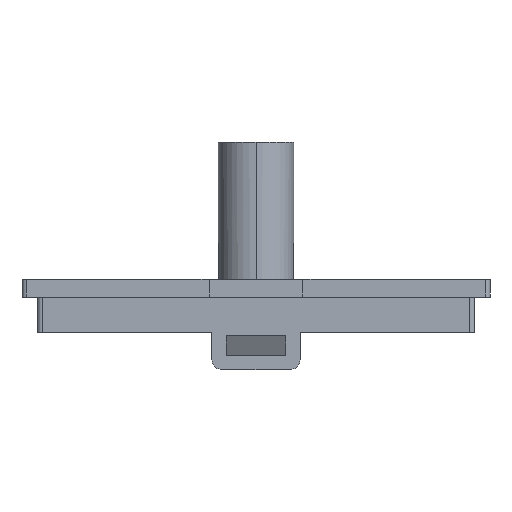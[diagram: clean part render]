
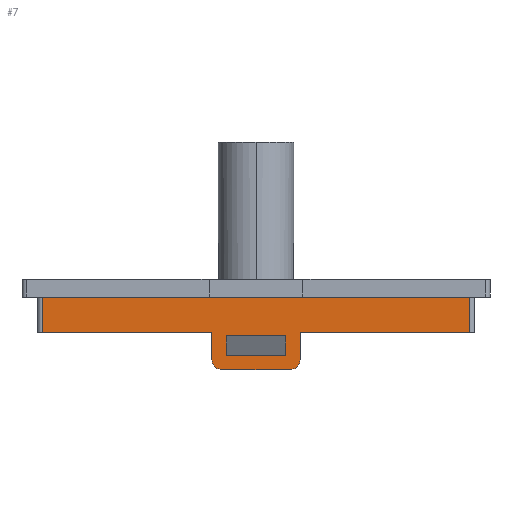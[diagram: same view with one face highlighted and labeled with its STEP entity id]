
A CAD part, left-side view. The second image highlights one B-rep face of the part: STEP entity #7.
In plain terms, the highlighted planar face has unit normal (-1, 0, 0).
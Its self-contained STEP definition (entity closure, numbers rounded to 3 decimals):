
#7 = ADVANCED_FACE ( 'NONE', ( #4616, #4592 ), #2514, .F. ) ;
#115 = VERTEX_POINT ( 'NONE', #4291 ) ;
#164 = EDGE_CURVE ( 'NONE', #839, #3807, #3872, .T. ) ;
#192 = EDGE_CURVE ( 'NONE', #839, #1678, #3787, .T. ) ;
#275 = ORIENTED_EDGE ( 'NONE', *, *, #164, .F. ) ;
#288 = ORIENTED_EDGE ( 'NONE', *, *, #346, .T. ) ;
#300 = CARTESIAN_POINT ( 'NONE',  ( -22.35, -4.5, -5.4 ) ) ;
#346 = EDGE_CURVE ( 'NONE', #1678, #4188, #3442, .T. ) ;
#348 = VERTEX_POINT ( 'NONE', #4698 ) ;
#385 = EDGE_CURVE ( 'NONE', #4188, #3083, #3417, .T. ) ;
#445 = VERTEX_POINT ( 'NONE', #1950 ) ;
#478 = EDGE_CURVE ( 'NONE', #348, #3083, #3152, .T. ) ;
#518 = CARTESIAN_POINT ( 'NONE',  ( -22.35, 22.35, -5.4 ) ) ;
#542 = DIRECTION ( 'NONE',  ( 0., 1., 0. ) ) ;
#575 = CARTESIAN_POINT ( 'NONE',  ( -22.35, 3.05, -5.75 ) ) ;
#597 = EDGE_CURVE ( 'NONE', #2228, #348, #2789, .T. ) ;
#608 = DIRECTION ( 'NONE',  ( 1., 0., 0. ) ) ;
#629 = EDGE_CURVE ( 'NONE', #445, #2228, #2865, .T. ) ;
#671 = DIRECTION ( 'NONE',  ( 0., 1., 0. ) ) ;
#740 = EDGE_CURVE ( 'NONE', #115, #445, #2710, .T. ) ;
#749 = CARTESIAN_POINT ( 'NONE',  ( -22.35, -3.5, -8.2 ) ) ;
#763 = CARTESIAN_POINT ( 'NONE',  ( -22.35, 3.5, -9.2 ) ) ;
#807 = EDGE_CURVE ( 'NONE', #1988, #115, #2491, .T. ) ;
#839 = VERTEX_POINT ( 'NONE', #3773 ) ;
#892 = EDGE_CURVE ( 'NONE', #3807, #1988, #2275, .T. ) ;
#953 = EDGE_CURVE ( 'NONE', #3988, #4210, #2165, .T. ) ;
#1052 = EDGE_CURVE ( 'NONE', #3988, #3462, #2005, .T. ) ;
#1136 = DIRECTION ( 'NONE',  ( 0., 0., 1. ) ) ;
#1169 = CARTESIAN_POINT ( 'NONE',  ( -22.35, 21.85, -1.8 ) ) ;
#1220 = EDGE_CURVE ( 'NONE', #3462, #2685, #1689, .T. ) ;
#1239 = EDGE_LOOP ( 'NONE', ( #275, #1773, #288, #1260, #2668, #2556, #4505, #3515, #3709, #4246 ) ) ;
#1260 = ORIENTED_EDGE ( 'NONE', *, *, #385, .T. ) ;
#1299 = CARTESIAN_POINT ( 'NONE',  ( -22.35, 22.35, -5.4 ) ) ;
#1316 = EDGE_CURVE ( 'NONE', #4210, #2685, #1448, .T. ) ;
#1318 = DIRECTION ( 'NONE',  ( 0., 1., 0. ) ) ;
#1375 = CARTESIAN_POINT ( 'NONE',  ( -22.35, 22.35, -5.4 ) ) ;
#1391 = VECTOR ( 'NONE', #4351, 1000. ) ;
#1448 = LINE ( 'NONE', #4741, #1391 ) ;
#1465 = CARTESIAN_POINT ( 'NONE',  ( -22.35, -3.05, -7.75 ) ) ;
#1481 = ORIENTED_EDGE ( 'NONE', *, *, #1220, .T. ) ;
#1494 = CARTESIAN_POINT ( 'NONE',  ( -22.35, 3.5, -8.2 ) ) ;
#1520 = CARTESIAN_POINT ( 'NONE',  ( -22.35, 4.5, -8.2 ) ) ;
#1556 = DIRECTION ( 'NONE',  ( 0., 0., -1. ) ) ;
#1627 = DIRECTION ( 'NONE',  ( 0., 0., 1. ) ) ;
#1678 = VERTEX_POINT ( 'NONE', #4218 ) ;
#1682 = DIRECTION ( 'NONE',  ( 0., 1., 0. ) ) ;
#1689 = LINE ( 'NONE', #4212, #1717 ) ;
#1717 = VECTOR ( 'NONE', #1984, 1000. ) ;
#1730 = ORIENTED_EDGE ( 'NONE', *, *, #1316, .F. ) ;
#1773 = ORIENTED_EDGE ( 'NONE', *, *, #192, .T. ) ;
#1878 = DIRECTION ( 'NONE',  ( 0., 0., -1. ) ) ;
#1907 = AXIS2_PLACEMENT_3D ( 'NONE', #749, #3381, #1136 ) ;
#1950 = CARTESIAN_POINT ( 'NONE',  ( -22.35, 3.5, -9.2 ) ) ;
#1979 = VECTOR ( 'NONE', #671, 1000. ) ;
#1984 = DIRECTION ( 'NONE',  ( 0., 0., 1. ) ) ;
#1988 = VERTEX_POINT ( 'NONE', #3350 ) ;
#1992 = CARTESIAN_POINT ( 'NONE',  ( -22.35, -21.85, -5.4 ) ) ;
#2005 = LINE ( 'NONE', #2215, #1979 ) ;
#2165 = LINE ( 'NONE', #4326, #2226 ) ;
#2215 = CARTESIAN_POINT ( 'NONE',  ( -22.35, -3.05, -7.75 ) ) ;
#2226 = VECTOR ( 'NONE', #3562, 1000. ) ;
#2228 = VERTEX_POINT ( 'NONE', #1520 ) ;
#2237 = CARTESIAN_POINT ( 'NONE',  ( -22.35, 4.5, -1.8 ) ) ;
#2263 = AXIS2_PLACEMENT_3D ( 'NONE', #1494, #4100, #1878 ) ;
#2275 = LINE ( 'NONE', #2731, #2279 ) ;
#2279 = VECTOR ( 'NONE', #3085, 1000. ) ;
#2491 = CIRCLE ( 'NONE', #1907, 1. ) ;
#2514 = PLANE ( 'NONE',  #4825 ) ;
#2556 = ORIENTED_EDGE ( 'NONE', *, *, #597, .F. ) ;
#2634 = VECTOR ( 'NONE', #3749, 1000. ) ;
#2668 = ORIENTED_EDGE ( 'NONE', *, *, #478, .F. ) ;
#2685 = VERTEX_POINT ( 'NONE', #575 ) ;
#2710 = LINE ( 'NONE', #763, #2634 ) ;
#2731 = CARTESIAN_POINT ( 'NONE',  ( -22.35, -4.5, -1.8 ) ) ;
#2756 = VECTOR ( 'NONE', #3320, 1000. ) ;
#2789 = LINE ( 'NONE', #2237, #2756 ) ;
#2865 = CIRCLE ( 'NONE', #2263, 1. ) ;
#3018 = EDGE_LOOP ( 'NONE', ( #4608, #4496, #1481, #1730 ) ) ;
#3076 = VECTOR ( 'NONE', #1682, 1000. ) ;
#3083 = VERTEX_POINT ( 'NONE', #4541 ) ;
#3085 = DIRECTION ( 'NONE',  ( 0., 0., -1. ) ) ;
#3152 = LINE ( 'NONE', #518, #3076 ) ;
#3188 = CARTESIAN_POINT ( 'NONE',  ( -22.35, 22.35, -1.8 ) ) ;
#3246 = DIRECTION ( 'NONE',  ( 0., 0., -1. ) ) ;
#3320 = DIRECTION ( 'NONE',  ( 0., 0., 1. ) ) ;
#3350 = CARTESIAN_POINT ( 'NONE',  ( -22.35, -4.5, -8.2 ) ) ;
#3364 = VECTOR ( 'NONE', #1556, 1000. ) ;
#3381 = DIRECTION ( 'NONE',  ( 1., 0., 0. ) ) ;
#3417 = LINE ( 'NONE', #3763, #3364 ) ;
#3437 = VECTOR ( 'NONE', #542, 1000. ) ;
#3442 = LINE ( 'NONE', #3188, #3437 ) ;
#3462 = VERTEX_POINT ( 'NONE', #4082 ) ;
#3515 = ORIENTED_EDGE ( 'NONE', *, *, #740, .F. ) ;
#3562 = DIRECTION ( 'NONE',  ( 0., 0., 1. ) ) ;
#3653 = VECTOR ( 'NONE', #1627, 1000. ) ;
#3709 = ORIENTED_EDGE ( 'NONE', *, *, #807, .F. ) ;
#3749 = DIRECTION ( 'NONE',  ( 0., 1., 0. ) ) ;
#3763 = CARTESIAN_POINT ( 'NONE',  ( -22.35, 21.85, -5.4 ) ) ;
#3773 = CARTESIAN_POINT ( 'NONE',  ( -22.35, -21.85, -5.4 ) ) ;
#3787 = LINE ( 'NONE', #1992, #3653 ) ;
#3807 = VERTEX_POINT ( 'NONE', #300 ) ;
#3872 = LINE ( 'NONE', #1299, #3891 ) ;
#3891 = VECTOR ( 'NONE', #1318, 1000. ) ;
#3988 = VERTEX_POINT ( 'NONE', #1465 ) ;
#4082 = CARTESIAN_POINT ( 'NONE',  ( -22.35, 3.05, -7.75 ) ) ;
#4100 = DIRECTION ( 'NONE',  ( 1., 0., 0. ) ) ;
#4188 = VERTEX_POINT ( 'NONE', #1169 ) ;
#4210 = VERTEX_POINT ( 'NONE', #4599 ) ;
#4212 = CARTESIAN_POINT ( 'NONE',  ( -22.35, 3.05, -7.75 ) ) ;
#4218 = CARTESIAN_POINT ( 'NONE',  ( -22.35, -21.85, -1.8 ) ) ;
#4246 = ORIENTED_EDGE ( 'NONE', *, *, #892, .F. ) ;
#4291 = CARTESIAN_POINT ( 'NONE',  ( -22.35, -3.5, -9.2 ) ) ;
#4326 = CARTESIAN_POINT ( 'NONE',  ( -22.35, -3.05, -7.75 ) ) ;
#4351 = DIRECTION ( 'NONE',  ( 0., 1., 0. ) ) ;
#4496 = ORIENTED_EDGE ( 'NONE', *, *, #1052, .T. ) ;
#4505 = ORIENTED_EDGE ( 'NONE', *, *, #629, .F. ) ;
#4541 = CARTESIAN_POINT ( 'NONE',  ( -22.35, 21.85, -5.4 ) ) ;
#4592 = FACE_BOUND ( 'NONE', #3018, .T. ) ;
#4599 = CARTESIAN_POINT ( 'NONE',  ( -22.35, -3.05, -5.75 ) ) ;
#4608 = ORIENTED_EDGE ( 'NONE', *, *, #953, .F. ) ;
#4616 = FACE_OUTER_BOUND ( 'NONE', #1239, .T. ) ;
#4698 = CARTESIAN_POINT ( 'NONE',  ( -22.35, 4.5, -5.4 ) ) ;
#4741 = CARTESIAN_POINT ( 'NONE',  ( -22.35, -3.05, -5.75 ) ) ;
#4825 = AXIS2_PLACEMENT_3D ( 'NONE', #1375, #608, #3246 ) ;
